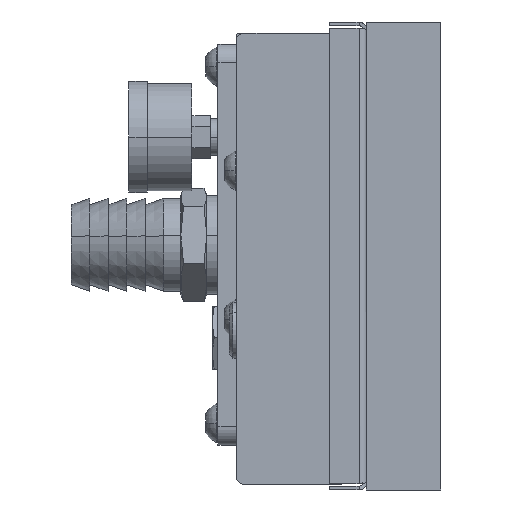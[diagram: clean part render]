
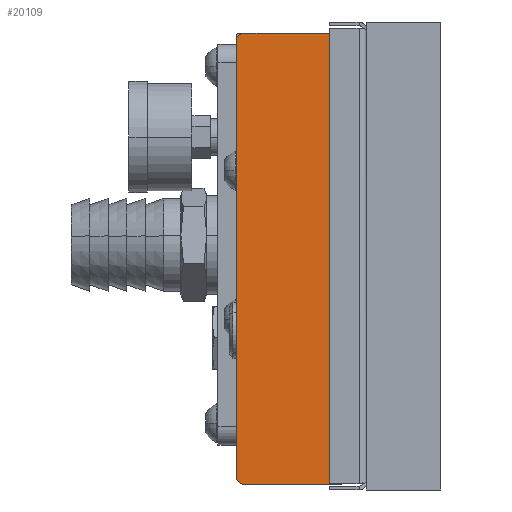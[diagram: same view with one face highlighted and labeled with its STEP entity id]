
A CAD part, left-side view. The second image highlights one B-rep face of the part: STEP entity #20109.
In plain terms, the highlighted planar face has unit normal (-1, 0, 0).
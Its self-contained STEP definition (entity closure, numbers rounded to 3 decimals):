
#1528 = EDGE_CURVE ( 'NONE', #20666, #20662, #7246, .T. ) ;
#7246 = CIRCLE ( 'NONE', #27493, 2. ) ;
#8966 = FACE_OUTER_BOUND ( 'NONE', #14478, .T. ) ;
#13776 = CARTESIAN_POINT ( 'NONE',  ( -169.048, 2.8, 57.539 ) ) ;
#13777 = DIRECTION ( 'NONE',  ( -1., 0., 0. ) ) ;
#13778 = DIRECTION ( 'NONE',  ( 0., 0., 1. ) ) ;
#13794 = CARTESIAN_POINT ( 'NONE',  ( -169.048, 0.8, 59.539 ) ) ;
#13795 = DIRECTION ( 'NONE',  ( 0., 0., 1. ) ) ;
#13840 = CARTESIAN_POINT ( 'NONE',  ( -169.048, 30.8, -61.961 ) ) ;
#13841 = DIRECTION ( 'NONE',  ( 0., -1., 0. ) ) ;
#13935 = CARTESIAN_POINT ( 'NONE',  ( -169.048, 28.8, 57.539 ) ) ;
#13936 = DIRECTION ( 'NONE',  ( -1., 0., 0. ) ) ;
#13937 = DIRECTION ( 'NONE',  ( 0., 0., 1. ) ) ;
#13943 = CARTESIAN_POINT ( 'NONE',  ( -169.048, 28.8, -59.961 ) ) ;
#13944 = DIRECTION ( 'NONE',  ( -1., 0., 0. ) ) ;
#13945 = DIRECTION ( 'NONE',  ( 0., 0., 1. ) ) ;
#14001 = CARTESIAN_POINT ( 'NONE',  ( -169.048, 30.8, 59.539 ) ) ;
#14008 = DIRECTION ( 'NONE',  ( 0., 0., -1. ) ) ;
#14380 = CARTESIAN_POINT ( 'NONE',  ( -169.048, 2.8, -59.961 ) ) ;
#14381 = DIRECTION ( 'NONE',  ( -1., 0., 0. ) ) ;
#14382 = DIRECTION ( 'NONE',  ( 0., 0., 1. ) ) ;
#14478 = EDGE_LOOP ( 'NONE', ( #21465, #21464, #21463, #21462, #21461, #21460, #21459, #21458 ) ) ;
#14721 = PLANE ( 'NONE',  #17185 ) ;
#14737 = CARTESIAN_POINT ( 'NONE',  ( -169.048, 0.8, 59.539 ) ) ;
#14739 = DIRECTION ( 'NONE',  ( 1., 0., 0. ) ) ;
#14740 = DIRECTION ( 'NONE',  ( 0., 0., 1. ) ) ;
#15721 = AXIS2_PLACEMENT_3D ( 'NONE', #13943, #13944, #13945 ) ;
#15723 = AXIS2_PLACEMENT_3D ( 'NONE', #13935, #13936, #13937 ) ;
#15795 = AXIS2_PLACEMENT_3D ( 'NONE', #13776, #13777, #13778 ) ;
#17185 = AXIS2_PLACEMENT_3D ( 'NONE', #14737, #14739, #14740 ) ;
#17507 = CARTESIAN_POINT ( 'NONE',  ( -169.048, 2.8, 59.539 ) ) ;
#17508 = CARTESIAN_POINT ( 'NONE',  ( -169.048, 28.8, 59.539 ) ) ;
#17511 = CARTESIAN_POINT ( 'NONE',  ( -169.048, 30.8, 57.539 ) ) ;
#17512 = CARTESIAN_POINT ( 'NONE',  ( -169.048, 30.8, -59.961 ) ) ;
#17514 = CARTESIAN_POINT ( 'NONE',  ( -169.048, 0.8, -59.961 ) ) ;
#17515 = CARTESIAN_POINT ( 'NONE',  ( -169.048, 28.8, -61.961 ) ) ;
#17516 = CARTESIAN_POINT ( 'NONE',  ( -169.048, 2.8, -61.961 ) ) ;
#17517 = CARTESIAN_POINT ( 'NONE',  ( -169.048, 0.8, 57.539 ) ) ;
#20109 = ADVANCED_FACE ( 'NONE', ( #8966 ), #14721, .F. ) ;
#20651 = VERTEX_POINT ( 'NONE', #17507 ) ;
#20653 = VERTEX_POINT ( 'NONE', #17508 ) ;
#20657 = VERTEX_POINT ( 'NONE', #17511 ) ;
#20658 = VERTEX_POINT ( 'NONE', #17512 ) ;
#20662 = VERTEX_POINT ( 'NONE', #17514 ) ;
#20664 = VERTEX_POINT ( 'NONE', #17515 ) ;
#20666 = VERTEX_POINT ( 'NONE', #17516 ) ;
#20667 = VERTEX_POINT ( 'NONE', #17517 ) ;
#21458 = ORIENTED_EDGE ( 'NONE', *, *, #27816, .T. ) ;
#21459 = ORIENTED_EDGE ( 'NONE', *, *, #27828, .T. ) ;
#21460 = ORIENTED_EDGE ( 'NONE', *, *, #27814, .T. ) ;
#21461 = ORIENTED_EDGE ( 'NONE', *, *, #26898, .T. ) ;
#21462 = ORIENTED_EDGE ( 'NONE', *, *, #27782, .T. ) ;
#21463 = ORIENTED_EDGE ( 'NONE', *, *, #27786, .T. ) ;
#21464 = ORIENTED_EDGE ( 'NONE', *, *, #1528, .T. ) ;
#21465 = ORIENTED_EDGE ( 'NONE', *, *, #27794, .T. ) ;
#22113 = CARTESIAN_POINT ( 'NONE',  ( -169.048, 30.8, 59.539 ) ) ;
#22114 = DIRECTION ( 'NONE',  ( 0., 1., 0. ) ) ;
#24415 = CIRCLE ( 'NONE', #15795, 2. ) ;
#24421 = VECTOR ( 'NONE', #13795, 1000. ) ;
#24425 = LINE ( 'NONE', #13794, #24421 ) ;
#24445 = VECTOR ( 'NONE', #13841, 1000. ) ;
#24447 = LINE ( 'NONE', #13840, #24445 ) ;
#24491 = CIRCLE ( 'NONE', #15723, 2. ) ;
#24495 = CIRCLE ( 'NONE', #15721, 2. ) ;
#24522 = LINE ( 'NONE', #14001, #24527 ) ;
#24527 = VECTOR ( 'NONE', #14008, 1000. ) ;
#26064 = LINE ( 'NONE', #22113, #26070 ) ;
#26070 = VECTOR ( 'NONE', #22114, 1000. ) ;
#26898 = EDGE_CURVE ( 'NONE', #20651, #20653, #26064, .T. ) ;
#27493 = AXIS2_PLACEMENT_3D ( 'NONE', #14380, #14381, #14382 ) ;
#27782 = EDGE_CURVE ( 'NONE', #20667, #20651, #24415, .T. ) ;
#27786 = EDGE_CURVE ( 'NONE', #20662, #20667, #24425, .T. ) ;
#27794 = EDGE_CURVE ( 'NONE', #20664, #20666, #24447, .T. ) ;
#27814 = EDGE_CURVE ( 'NONE', #20653, #20657, #24491, .T. ) ;
#27816 = EDGE_CURVE ( 'NONE', #20658, #20664, #24495, .T. ) ;
#27828 = EDGE_CURVE ( 'NONE', #20657, #20658, #24522, .T. ) ;
